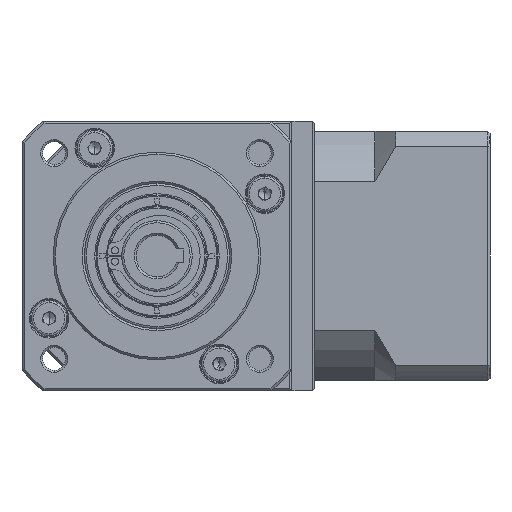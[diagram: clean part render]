
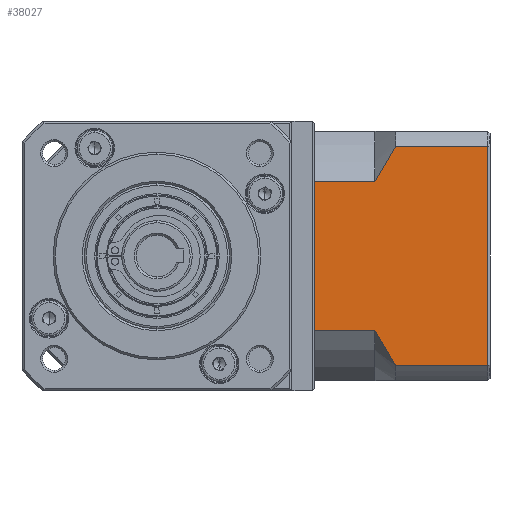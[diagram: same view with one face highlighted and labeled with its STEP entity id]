
A CAD part, left-side view. The second image highlights one B-rep face of the part: STEP entity #38027.
In plain terms, the highlighted planar face has unit normal (-1, 0, 0).
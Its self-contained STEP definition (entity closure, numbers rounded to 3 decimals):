
#6331 = LINE ( 'NONE', #9996, #151373 ) ;
#6523 = AXIS2_PLACEMENT_3D ( 'NONE', #151959, #67915, #166063 ) ;
#7628 = VERTEX_POINT ( 'NONE', #131379 ) ;
#9996 = CARTESIAN_POINT ( 'NONE',  ( -32.751, -79.201, -90.714 ) ) ;
#10296 = CARTESIAN_POINT ( 'NONE',  ( -32.751, -84.201, -135.199 ) ) ;
#16657 = EDGE_LOOP ( 'NONE', ( #142533, #21990, #123045, #103459, #52258, #53187, #68435, #94672 ) ) ;
#17057 = CARTESIAN_POINT ( 'NONE',  ( -32.751, -79.201, -126.769 ) ) ;
#18399 = VERTEX_POINT ( 'NONE', #22077 ) ;
#20276 = CARTESIAN_POINT ( 'NONE',  ( -32.751, -106.401, -82.284 ) ) ;
#20574 = EDGE_CURVE ( 'NONE', #52796, #7628, #6331, .T. ) ;
#21031 = CARTESIAN_POINT ( 'NONE',  ( -32.751, -84.201, -82.284 ) ) ;
#21990 = ORIENTED_EDGE ( 'NONE', *, *, #55396, .T. ) ;
#22077 = CARTESIAN_POINT ( 'NONE',  ( -32.751, -106.401, -135.199 ) ) ;
#31223 = CARTESIAN_POINT ( 'NONE',  ( -32.751, -79.951, -128.226 ) ) ;
#31331 = FACE_OUTER_BOUND ( 'NONE', #16657, .T. ) ;
#33159 = DIRECTION ( 'NONE',  ( 0., 1., 0. ) ) ;
#37869 = EDGE_CURVE ( 'NONE', #52796, #97886, #66685, .T. ) ;
#38027 = ADVANCED_FACE ( 'NONE', ( #31331 ), #95563, .F. ) ;
#43468 = EDGE_CURVE ( 'NONE', #151977, #7628, #49130, .T. ) ;
#46595 = VECTOR ( 'NONE', #149053, 1000. ) ;
#49130 = B_SPLINE_CURVE_WITH_KNOTS ( 'NONE', 3,
 ( #21031, #160420, #49344, #147530, #63534, #161625 ),
 .UNSPECIFIED., .F., .F.,
 ( 4, 2, 4 ),
 ( 0.052, 0.057, 0.062 ),
 .UNSPECIFIED. ) ;
#49344 = CARTESIAN_POINT ( 'NONE',  ( -32.751, -82.428, -85.023 ) ) ;
#52258 = ORIENTED_EDGE ( 'NONE', *, *, #20574, .F. ) ;
#52796 = VERTEX_POINT ( 'NONE', #62664 ) ;
#53187 = ORIENTED_EDGE ( 'NONE', *, *, #37869, .T. ) ;
#55396 = EDGE_CURVE ( 'NONE', #18399, #56446, #154449, .T. ) ;
#56446 = VERTEX_POINT ( 'NONE', #20276 ) ;
#58629 = CARTESIAN_POINT ( 'NONE',  ( -32.751, -106.401, -138.741 ) ) ;
#58842 = CARTESIAN_POINT ( 'NONE',  ( -32.751, -64.701, -126.769 ) ) ;
#59529 = CARTESIAN_POINT ( 'NONE',  ( -32.751, -82.426, -132.456 ) ) ;
#61291 = VERTEX_POINT ( 'NONE', #10296 ) ;
#62664 = CARTESIAN_POINT ( 'NONE',  ( -32.751, -64.701, -90.714 ) ) ;
#63534 = CARTESIAN_POINT ( 'NONE',  ( -32.751, -79.949, -89.262 ) ) ;
#64298 = CARTESIAN_POINT ( 'NONE',  ( -32.751, -64.701, -138.741 ) ) ;
#65039 = CARTESIAN_POINT ( 'NONE',  ( -32.751, -79.201, -82.284 ) ) ;
#65393 = EDGE_CURVE ( 'NONE', #151977, #56446, #167418, .T. ) ;
#66685 = LINE ( 'NONE', #64298, #104019 ) ;
#67915 = DIRECTION ( 'NONE',  ( 1., 0., 0. ) ) ;
#68435 = ORIENTED_EDGE ( 'NONE', *, *, #176961, .F. ) ;
#72743 = DIRECTION ( 'NONE',  ( 0., 0., 1. ) ) ;
#73669 = CARTESIAN_POINT ( 'NONE',  ( -32.751, -84.201, -135.199 ) ) ;
#80824 = VECTOR ( 'NONE', #176658, 1000. ) ;
#92521 = DIRECTION ( 'NONE',  ( 0., 0., -1. ) ) ;
#94672 = ORIENTED_EDGE ( 'NONE', *, *, #154131, .T. ) ;
#95563 = PLANE ( 'NONE',  #6523 ) ;
#97886 = VERTEX_POINT ( 'NONE', #58842 ) ;
#103459 = ORIENTED_EDGE ( 'NONE', *, *, #43468, .T. ) ;
#104019 = VECTOR ( 'NONE', #92521, 1000. ) ;
#112792 = VECTOR ( 'NONE', #72743, 1000. ) ;
#118126 = LINE ( 'NONE', #134356, #80824 ) ;
#123045 = ORIENTED_EDGE ( 'NONE', *, *, #65393, .F. ) ;
#126349 = VERTEX_POINT ( 'NONE', #148807 ) ;
#128795 = EDGE_CURVE ( 'NONE', #18399, #61291, #118126, .T. ) ;
#131379 = CARTESIAN_POINT ( 'NONE',  ( -32.751, -79.201, -90.714 ) ) ;
#134356 = CARTESIAN_POINT ( 'NONE',  ( -32.751, -79.201, -135.199 ) ) ;
#137091 = DIRECTION ( 'NONE',  ( 0., -1., 0. ) ) ;
#142533 = ORIENTED_EDGE ( 'NONE', *, *, #128795, .F. ) ;
#143587 = CARTESIAN_POINT ( 'NONE',  ( -32.751, -80.752, -129.651 ) ) ;
#147530 = CARTESIAN_POINT ( 'NONE',  ( -32.751, -80.753, -87.83 ) ) ;
#148807 = CARTESIAN_POINT ( 'NONE',  ( -32.751, -79.201, -126.769 ) ) ;
#149053 = DIRECTION ( 'NONE',  ( 0., -1., 0. ) ) ;
#151373 = VECTOR ( 'NONE', #137091, 1000. ) ;
#151959 = CARTESIAN_POINT ( 'NONE',  ( -32.751, -106.901, -138.741 ) ) ;
#151977 = VERTEX_POINT ( 'NONE', #176345 ) ;
#153043 = LINE ( 'NONE', #159060, #157475 ) ;
#154131 = EDGE_CURVE ( 'NONE', #126349, #61291, #162728, .T. ) ;
#154449 = LINE ( 'NONE', #58629, #112792 ) ;
#157475 = VECTOR ( 'NONE', #33159, 1000. ) ;
#157713 = CARTESIAN_POINT ( 'NONE',  ( -32.751, -83.3, -133.836 ) ) ;
#159060 = CARTESIAN_POINT ( 'NONE',  ( -32.751, -79.201, -126.769 ) ) ;
#160420 = CARTESIAN_POINT ( 'NONE',  ( -32.751, -83.302, -83.644 ) ) ;
#161625 = CARTESIAN_POINT ( 'NONE',  ( -32.751, -79.201, -90.714 ) ) ;
#162728 = B_SPLINE_CURVE_WITH_KNOTS ( 'NONE', 3,
 ( #17057, #31223, #143587, #59529, #157713, #73669 ),
 .UNSPECIFIED., .F., .F.,
 ( 4, 2, 4 ),
 ( 0.1, 0.104, 0.109 ),
 .UNSPECIFIED. ) ;
#166063 = DIRECTION ( 'NONE',  ( 0., 1., 0. ) ) ;
#167418 = LINE ( 'NONE', #65039, #46595 ) ;
#176345 = CARTESIAN_POINT ( 'NONE',  ( -32.751, -84.201, -82.284 ) ) ;
#176658 = DIRECTION ( 'NONE',  ( 0., 1., 0. ) ) ;
#176961 = EDGE_CURVE ( 'NONE', #126349, #97886, #153043, .T. ) ;
